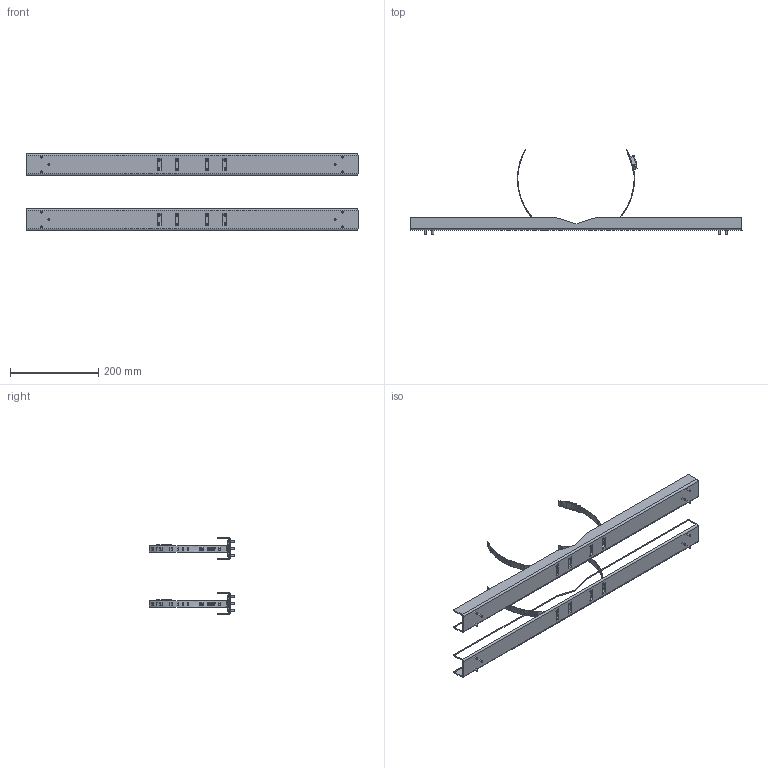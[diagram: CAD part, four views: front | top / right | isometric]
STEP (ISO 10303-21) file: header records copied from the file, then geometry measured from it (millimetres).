
FILE_DESCRIPTION(/* description */ (''),/* implementation_level */ '2;1');
FILE_NAME(/* name */ '4005208.stp',/* time_stamp */ '2016-09-26T10:55:54+02:00',/* author */ (''),/* organization */ (''),/* preprocessor_version */ 'ST-DEVELOPER v16',/* originating_system */ 'SIEMENS PLM Software NX 11.0',/* authorisation */ '');
FILE_SCHEMA (('AUTOMOTIVE_DESIGN { 1 0 10303 214 3 1 1 1 }'));
Length unit declared in the file: millimetre
Products named in the file (1): 4005208_LINKEDEXT_jt
Bounding box: 754 x 194.18 x 175 mm (x, y, z)
Surface area: 233403.3 mm2 (no closed solid volume)
Topology: 0 solids, 35 shells, 341 faces, 1975 edges, 1518 vertices
Faces by surface type: plane 188, cylinder 98, bspline 24, sphere 12, torus 12, cone 7
Full cylindrical faces by diameter (mm): 4 x12, 7 x2, 7.2 x12
Entity records: 31549 total; most frequent: CARTESIAN_POINT 15720, DIRECTION 2734, ORIENTED_EDGE 2445, EDGE_CURVE 1918, VERTEX_POINT 1494, AXIS2_PLACEMENT_3D 1022, LINE 690, VECTOR 690
